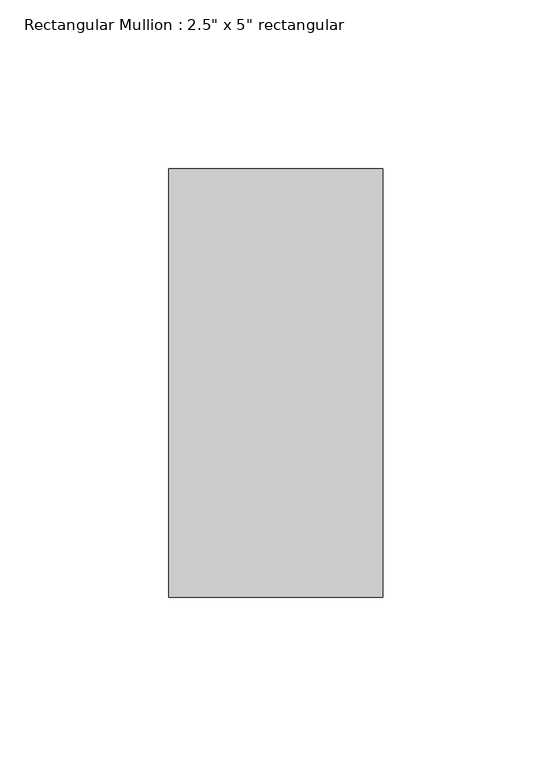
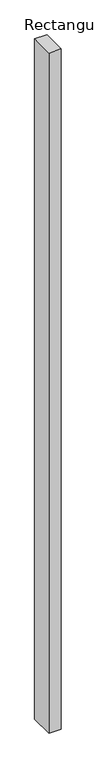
"""IFC4 building model written with IfcOpenShell, lengths in millimetres: member geometry."""

from ifc_helpers import new_model, si_unit, frame, origin, place, context, project, spatial, polyline, outline, extrude, source, transform, mapped, element, save


def member_165c0c02(model_context):
    return source(origin(), model_context, "Body", "SweptSolid", [
        extrude(outline(polyline([(31.75, 63.5), (31.75, -63.5), (-31.75, -63.5), (-31.75, 63.5), (31.75, 63.5)])), frame((0.0, 0.0, -3721.1), z_axis=(0.0, 0.0, 1.0), x_axis=(1.0, 0.0, 0.0)), (0.0, 0.0, 1.0), 3721.1),
    ])


if __name__ == "__main__":
    model = new_model("IFC4")
    model_context = context("Model", 3, world=origin())
    ifc_project = project(units=[si_unit("LENGTHUNIT", "METRE", prefix="MILLI")], contexts=[model_context])
    site = spatial("IfcSite", under=ifc_project)
    building = spatial("IfcBuilding", under=site)
    placement = place(None, origin())
    member_shape = member_165c0c02(model_context)
    element("IfcMember", 1, ObjectType="Rectangular Mullion : 2.5\" x 5\" rectangular", at=placement, inside=building, context=model_context, shape_type="MappedRepresentation", body=[
        mapped(member_shape, transform((0.0, 0.0, 0.0), x_axis=(1.0, 0.0, 0.0), y_axis=(0.0, 1.0, 0.0), z_axis=(0.0, 0.0, 1.0))),
    ])
    save(model, "model.ifc")
